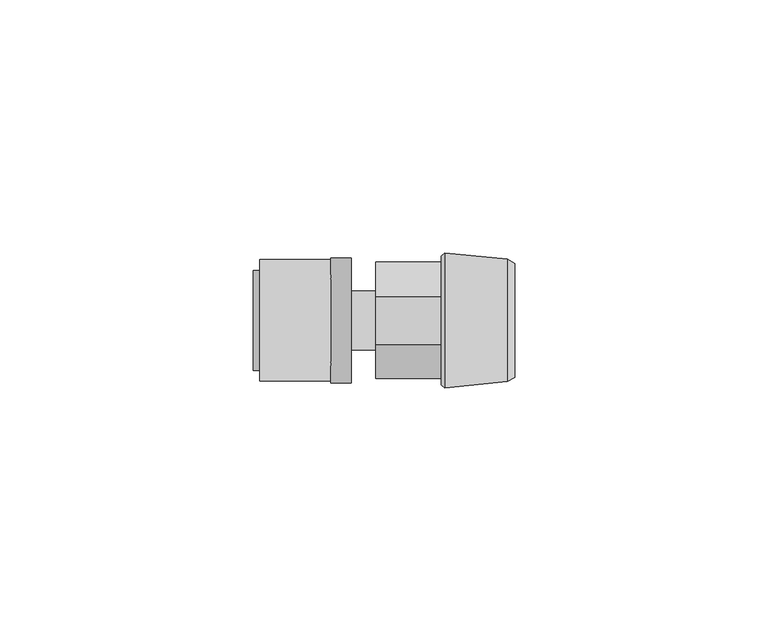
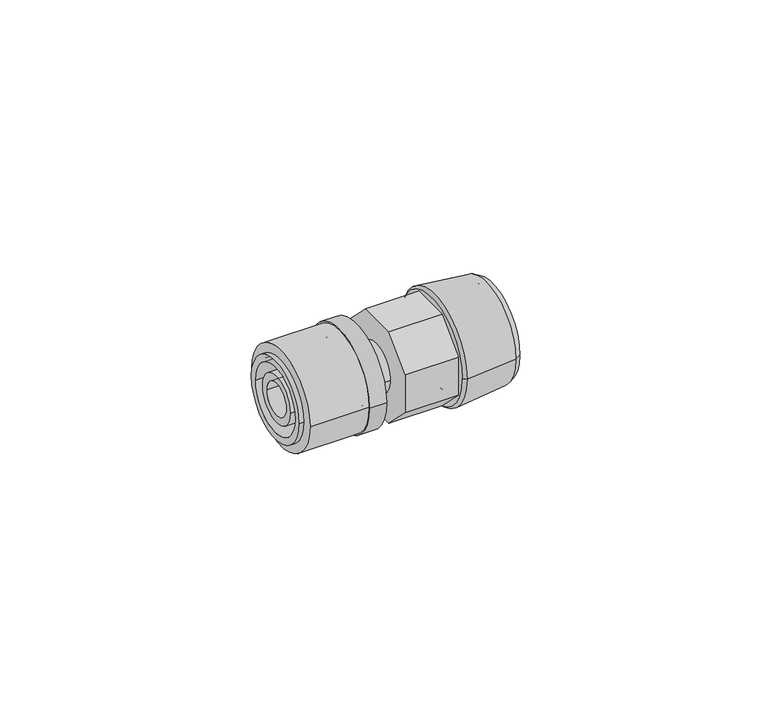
"""IFC4 building model written with IfcOpenShell, lengths in millimetres: pipe fitting geometry, FASTLOC_Adapter_RX+, with external thread : FSL A C external EX+ AT."""

from ifc_helpers import new_model, si_unit, point, frame, origin, origin_2d, place, context, project, spatial, polyline, circle_curve, trimmed, segment, composite_curve, outline, extrude, source, transform, mapped, element, save
from ifc_brep_helpers import plane_surface, cylinder_surface, revolved_surface, advanced_brep


def pipe_fitting_41a35f07(model_context):
    return source(origin(), model_context, "Body", "SolidModel", [
        extrude(outline(composite_curve([segment(trimmed(circle_curve(origin_2d(), 12.0), [point((12.0, 0.0))], [point((-12.0, 0.0))], False, "CARTESIAN"), True, "CONTINUOUS"), segment(trimmed(circle_curve(origin_2d(), 12.0), [point((-12.0, 0.0))], [point((12.0, 0.0))], False, "CARTESIAN"), True, "CONTINUOUS")], self_intersect=False), holes=[composite_curve([segment(trimmed(circle_curve(origin_2d(), 8.85), [point((8.85, 0.0))], [point((-8.85, 0.0))], True, "CARTESIAN"), True, "CONTINUOUS"), segment(trimmed(circle_curve(origin_2d(), 8.85), [point((-8.85, 0.0))], [point((8.85, 0.0))], True, "CARTESIAN"), True, "CONTINUOUS")], self_intersect=False)]), frame((-22.9, 0.0, 0.0), z_axis=(1.0, 0.0, 0.0), x_axis=(0.0, 1.0, 0.0)), (0.0, 0.0, 1.0), 14.0),
        advanced_brep(
        [(-8.9, -12.35, 0.0), (-8.9, 12.35, 0.0), (-4.9, 12.35, 0.0), (-4.9, -12.35, 0.0), (-24.2, -9.85, 0.0), (-24.2, 9.85, 0.0), (-8.9, 9.85, 0.0), (-8.9, -9.85, 0.0), (-4.9, -8.15, 0.0), (-4.9, 8.15, 0.0), (-24.2, 8.15, 0.0), (-24.2, -8.15, 0.0)],
        [
            (0, 1, circle_curve(frame((-8.9, 0.0, 0.0), z_axis=(1.0, 0.0, 0.0), x_axis=(0.0, 1.0, 0.0)), 12.35)),
            (1, 2),
            (2, 3, circle_curve(frame((-4.9, 0.0, 0.0), z_axis=(-1.0, 0.0, 0.0), x_axis=(0.0, 1.0, 0.0)), 12.35)),
            (3, 0),
            (4, 5, circle_curve(frame((-24.2, 0.0, 0.0), z_axis=(1.0, 0.0, 0.0), x_axis=(0.0, 1.0, 0.0)), 9.85)),
            (5, 6),
            (6, 7, circle_curve(frame((-8.9, 0.0, 0.0), z_axis=(-1.0, 0.0, 0.0), x_axis=(0.0, 1.0, 0.0)), 9.85)),
            (7, 4),
            (8, 9, circle_curve(frame((-4.9, 0.0, 0.0), z_axis=(1.0, 0.0, 0.0), x_axis=(0.0, 1.0, 0.0)), 8.15)),
            (9, 10),
            (10, 11, circle_curve(frame((-24.2, 0.0, 0.0), z_axis=(-1.0, 0.0, 0.0), x_axis=(0.0, 1.0, 0.0)), 8.15)),
            (11, 8),
            (1, 0, circle_curve(frame((-8.9, 0.0, 0.0), z_axis=(1.0, 0.0, 0.0), x_axis=(0.0, -1.0, 0.0)), 12.35)),
            (3, 2, circle_curve(frame((-4.9, 0.0, 0.0), z_axis=(-1.0, 0.0, 0.0), x_axis=(0.0, -1.0, 0.0)), 12.35)),
            (6, 7, circle_curve(frame((-8.9, 0.0, 0.0), z_axis=(1.0, 0.0, 0.0), x_axis=(0.0, -1.0, 0.0)), 9.85)),
            (5, 4, circle_curve(frame((-24.2, 0.0, 0.0), z_axis=(1.0, 0.0, 0.0), x_axis=(0.0, -1.0, 0.0)), 9.85)),
            (10, 11, circle_curve(frame((-24.2, 0.0, 0.0), z_axis=(1.0, 0.0, 0.0), x_axis=(0.0, -1.0, 0.0)), 8.15)),
            (9, 8, circle_curve(frame((-4.9, 0.0, 0.0), z_axis=(1.0, 0.0, 0.0), x_axis=(0.0, -1.0, 0.0)), 8.15)),
        ],
        [
            cylinder_surface(frame((-4.9, 0.0, 0.0), z_axis=(-1.0, 0.0, 0.0), x_axis=(0.0, 1.0, 0.0)), 12.35),
            cylinder_surface(frame((-4.9, 0.0, 0.0), z_axis=(-1.0, 0.0, 0.0), x_axis=(0.0, 1.0, 0.0)), 9.85),
            revolved_surface(polyline([(-24.199999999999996, 8.15, 0.0), (-4.9, 8.15, 0.0)]), (-4.9, 0.0, 0.0), (-1.0, 0.0, 0.0)),
            cylinder_surface(frame((-4.9, 0.0, 0.0), z_axis=(-1.0, 0.0, 0.0), x_axis=(0.0, -1.0, 0.0)), 12.35),
            plane_surface(frame((-8.9, 0.0, 0.0), z_axis=(-1.0, 0.0, 0.0), x_axis=(0.0, -1.0, 0.0))),
            cylinder_surface(frame((-4.9, 0.0, 0.0), z_axis=(-1.0, 0.0, 0.0), x_axis=(0.0, -1.0, 0.0)), 9.85),
            plane_surface(frame((-24.2, 0.0, 0.0), z_axis=(-1.0, 0.0, 0.0), x_axis=(0.0, -1.0, 0.0))),
            revolved_surface(polyline([(-24.199999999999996, -8.15, 0.0), (-4.9, -8.15, 0.0)]), (-4.9, 0.0, 0.0), (-1.0, 0.0, 0.0)),
            plane_surface(frame((-4.9, 0.0, 0.0), z_axis=(1.0, 0.0, 0.0), x_axis=(0.0, -1.0, 0.0))),
        ],
        [
            (0, [[1, 2, 3, 4]]),
            (1, [[5, 6, 7, 8]]),
            (2, [[9, 10, 11, 12]]),
            (3, [[13, -4, 14, -2]]),
            (4, [[-13, -1], [15, -7]]),
            (5, [[16, -8, -15, -6]]),
            (6, [[-16, -5], [17, -11]]),
            (7, [[18, -12, -17, -10]]),
            (8, [[-14, -3], [-18, -9]]),
        ],
    ),
        advanced_brep(
        [(14.0032803, 9.5, 0.0), (14.0032803, -9.5, 0.0), (27.4, -9.5, 0.0), (27.4, 9.5, 0.0), (12.9, 8.3967197, 0.0), (12.9, -8.3967197, 0.0), (13.6406902, 13.3, 0.0), (13.6406902, -13.3, 0.0), (12.9, -12.7, 0.0), (12.9, 12.7, 0.0), (25.9000007, 12.1, 0.0), (25.9000007, -12.1, 0.0), (27.4, 11.25, 0.0), (27.4, -11.25, 0.0)],
        [
            (0, 1, circle_curve(frame((14.0032803, 0.0, 0.0), z_axis=(-1.0, 0.0, 0.0), x_axis=(0.0, -1.0, 0.0)), 9.5)),
            (1, 2),
            (2, 3, circle_curve(frame((27.4, 0.0, 0.0), z_axis=(1.0, 0.0, 0.0), x_axis=(0.0, -1.0, 0.0)), 9.5)),
            (3, 0),
            (4, 5, circle_curve(frame((12.9, 0.0, 0.0), z_axis=(-1.0, 0.0, 0.0), x_axis=(0.0, -1.0, 0.0)), 8.3967197)),
            (5, 1),
            (0, 4),
            (6, 7, circle_curve(frame((13.6406902, 0.0, 0.0), z_axis=(-1.0, 0.0, 0.0), x_axis=(0.0, -1.0, 0.0)), 13.3)),
            (7, 8),
            (8, 9, circle_curve(frame((12.9, 0.0, 0.0), z_axis=(1.0, 0.0, 0.0), x_axis=(0.0, -1.0, 0.0)), 12.7)),
            (9, 6),
            (10, 11, circle_curve(frame((25.9000007, 0.0, 0.0), z_axis=(-1.0, 0.0, 0.0), x_axis=(0.0, -1.0, 0.0)), 12.1)),
            (11, 7),
            (6, 10),
            (12, 13, circle_curve(frame((27.4, 0.0, 0.0), z_axis=(-1.0, 0.0, 0.0), x_axis=(0.0, -1.0, 0.0)), 11.25)),
            (13, 11),
            (10, 12),
            (1, 0, circle_curve(frame((14.0032803, 0.0, 0.0), z_axis=(-1.0, 0.0, 0.0), x_axis=(0.0, 1.0, 0.0)), 9.5)),
            (3, 2, circle_curve(frame((27.4, 0.0, 0.0), z_axis=(1.0, 0.0, 0.0), x_axis=(0.0, 1.0, 0.0)), 9.5)),
            (5, 4, circle_curve(frame((12.9, 0.0, 0.0), z_axis=(-1.0, 0.0, 0.0), x_axis=(0.0, 1.0, 0.0)), 8.3967197)),
            (8, 9, circle_curve(frame((12.9, 0.0, 0.0), z_axis=(-1.0, 0.0, 0.0), x_axis=(0.0, 1.0, 0.0)), 12.7)),
            (7, 6, circle_curve(frame((13.6406902, 0.0, 0.0), z_axis=(-1.0, 0.0, 0.0), x_axis=(0.0, 1.0, 0.0)), 13.3)),
            (11, 10, circle_curve(frame((25.9000007, 0.0, 0.0), z_axis=(-1.0, 0.0, 0.0), x_axis=(0.0, 1.0, 0.0)), 12.1)),
            (13, 12, circle_curve(frame((27.4, 0.0, 0.0), z_axis=(-1.0, 0.0, 0.0), x_axis=(0.0, 1.0, 0.0)), 11.25)),
        ],
        [
            revolved_surface(polyline([(27.4, -9.5, 0.0), (14.0032803, -9.5, 0.0)]), (0.0, 0.0, 0.0), (1.0, 0.0, 0.0)),
            revolved_surface(polyline([(14.0032803, -9.5, 0.0), (12.9, -8.3967197, 0.0)]), (0.0, 0.0, 0.0), (1.0, 0.0, 0.0)),
            revolved_surface(polyline([(12.9, -12.7, 0.0), (13.6406902, -13.3, 0.0)]), (0.0, 0.0, 0.0), (1.0, 0.0, 0.0)),
            revolved_surface(polyline([(13.6406902, -13.3, 0.0), (25.9000007, -12.1, 0.0)]), (0.0, 0.0, 0.0), (1.0, 0.0, 0.0)),
            revolved_surface(polyline([(25.9000007, -12.1, 0.0), (27.4, -11.25, 0.0)]), (0.0, 0.0, 0.0), (1.0, 0.0, 0.0)),
            revolved_surface(polyline([(27.4, 9.5, 0.0), (14.0032803, 9.5, 0.0)]), (0.0, 0.0, 0.0), (1.0, 0.0, 0.0)),
            revolved_surface(polyline([(14.0032803, 9.5, 0.0), (12.9, 8.3967197, 0.0)]), (0.0, 0.0, 0.0), (1.0, 0.0, 0.0)),
            plane_surface(frame((12.9, 0.0, 0.0), z_axis=(-1.0, 0.0, 0.0), x_axis=(0.0, 1.0, 0.0))),
            revolved_surface(polyline([(12.9, 12.7, 0.0), (13.6406902, 13.3, 0.0)]), (0.0, 0.0, 0.0), (1.0, 0.0, 0.0)),
            revolved_surface(polyline([(13.6406902, 13.3, 0.0), (25.9000007, 12.1, 0.0)]), (0.0, 0.0, 0.0), (1.0, 0.0, 0.0)),
            revolved_surface(polyline([(25.9000007, 12.1, 0.0), (27.4, 11.25, 0.0)]), (0.0, 0.0, 0.0), (1.0, 0.0, 0.0)),
            plane_surface(frame((27.4, 0.0, 0.0), z_axis=(1.0, 0.0, 0.0), x_axis=(0.0, 1.0, 0.0))),
        ],
        [
            (0, [[1, 2, 3, 4]]),
            (1, [[5, 6, -1, 7]]),
            (2, [[8, 9, 10, 11]]),
            (3, [[12, 13, -8, 14]]),
            (4, [[15, 16, -12, 17]]),
            (5, [[18, -4, 19, -2]]),
            (6, [[20, -7, -18, -6]]),
            (7, [[21, -10], [-20, -5]]),
            (8, [[22, -11, -21, -9]]),
            (9, [[23, -14, -22, -13]]),
            (10, [[24, -17, -23, -16]]),
            (11, [[-24, -15], [-19, -3]]),
        ],
    ),
        extrude(outline(polyline([(-11.5, 4.763456), (-4.763456, 11.5), (4.763456, 11.5), (11.5, 4.763456), (11.5, -4.763456), (4.763456, -11.5), (-4.763456, -11.5), (-11.5, -4.763456), (-11.5, 4.763456)])), frame((0.0, 0.0, 0.0), z_axis=(1.0, 0.0, 0.0), x_axis=(0.0, 1.0, 0.0)), (0.0, 0.0, 1.0), 12.9),
        advanced_brep(
        [(-23.9, 3.95, 0.0), (-23.9, -3.95, 0.0), (0.0, -3.95, 0.0), (0.0, 3.95, 0.0), (0.0, 5.8, 0.0), (0.0, -5.8, 0.0), (-6.2, -5.8, 0.0), (-6.2, 5.8, 0.0), (-6.2, 6.9, 0.0), (-6.2, -6.9, 0.0), (-8.9, -6.9, 0.0), (-8.9, 6.9, 0.0), (-8.9, 5.8, 0.0), (-8.9, -5.8, 0.0), (-23.9, -5.8, 0.0), (-23.9, 5.8, 0.0)],
        [
            (0, 1, circle_curve(frame((-23.9, 0.0, 0.0), z_axis=(-1.0, 0.0, 0.0), x_axis=(0.0, -1.0, 0.0)), 3.95)),
            (1, 2),
            (2, 3, circle_curve(frame((0.0, 0.0, 0.0), z_axis=(1.0, 0.0, 0.0), x_axis=(0.0, -1.0, 0.0)), 3.95)),
            (3, 0),
            (4, 5, circle_curve(frame((0.0, 0.0, 0.0), z_axis=(-1.0, 0.0, 0.0), x_axis=(0.0, -1.0, 0.0)), 5.8)),
            (5, 6),
            (6, 7, circle_curve(frame((-6.2, 0.0, 0.0), z_axis=(1.0, 0.0, 0.0), x_axis=(0.0, -1.0, 0.0)), 5.8)),
            (7, 4),
            (8, 9, circle_curve(frame((-6.2, 0.0, 0.0), z_axis=(-1.0, 0.0, 0.0), x_axis=(0.0, -1.0, 0.0)), 6.9)),
            (9, 10),
            (10, 11, circle_curve(frame((-8.9, 0.0, 0.0), z_axis=(1.0, 0.0, 0.0), x_axis=(0.0, -1.0, 0.0)), 6.9)),
            (11, 8),
            (12, 13, circle_curve(frame((-8.9, 0.0, 0.0), z_axis=(-1.0, 0.0, 0.0), x_axis=(0.0, -1.0, 0.0)), 5.8)),
            (13, 14),
            (14, 15, circle_curve(frame((-23.9, 0.0, 0.0), z_axis=(1.0, 0.0, 0.0), x_axis=(0.0, -1.0, 0.0)), 5.8)),
            (15, 12),
            (1, 0, circle_curve(frame((-23.9, 0.0, 0.0), z_axis=(-1.0, 0.0, 0.0), x_axis=(0.0, 1.0, 0.0)), 3.95)),
            (3, 2, circle_curve(frame((0.0, 0.0, 0.0), z_axis=(1.0, 0.0, 0.0), x_axis=(0.0, 1.0, 0.0)), 3.95)),
            (4, 5, circle_curve(frame((0.0, 0.0, 0.0), z_axis=(1.0, 0.0, 0.0), x_axis=(0.0, 1.0, 0.0)), 5.8)),
            (7, 6, circle_curve(frame((-6.2, 0.0, 0.0), z_axis=(1.0, 0.0, 0.0), x_axis=(0.0, 1.0, 0.0)), 5.8)),
            (8, 9, circle_curve(frame((-6.2, 0.0, 0.0), z_axis=(1.0, 0.0, 0.0), x_axis=(0.0, 1.0, 0.0)), 6.9)),
            (11, 10, circle_curve(frame((-8.9, 0.0, 0.0), z_axis=(1.0, 0.0, 0.0), x_axis=(0.0, 1.0, 0.0)), 6.9)),
            (12, 13, circle_curve(frame((-8.9, 0.0, 0.0), z_axis=(1.0, 0.0, 0.0), x_axis=(0.0, 1.0, 0.0)), 5.8)),
            (15, 14, circle_curve(frame((-23.9, 0.0, 0.0), z_axis=(1.0, 0.0, 0.0), x_axis=(0.0, 1.0, 0.0)), 5.8)),
        ],
        [
            revolved_surface(polyline([(0.0, -3.95, 0.0), (-23.9, -3.95, 0.0)]), (0.0, 0.0, 0.0), (1.0, 0.0, 0.0)),
            cylinder_surface(frame((0.0, 0.0, 0.0), z_axis=(1.0, 0.0, 0.0), x_axis=(0.0, -1.0, 0.0)), 5.8),
            cylinder_surface(frame((0.0, 0.0, 0.0), z_axis=(1.0, 0.0, 0.0), x_axis=(0.0, -1.0, 0.0)), 6.9),
            revolved_surface(polyline([(0.0, 3.95, 0.0), (-23.9, 3.95, 0.0)]), (0.0, 0.0, 0.0), (1.0, 0.0, 0.0)),
            plane_surface(frame((0.0, 0.0, 0.0), z_axis=(1.0, 0.0, 0.0), x_axis=(0.0, 1.0, 0.0))),
            cylinder_surface(frame((0.0, 0.0, 0.0), z_axis=(1.0, 0.0, 0.0), x_axis=(0.0, 1.0, 0.0)), 5.8),
            plane_surface(frame((-6.2, 0.0, 0.0), z_axis=(1.0, 0.0, 0.0), x_axis=(0.0, 1.0, 0.0))),
            cylinder_surface(frame((0.0, 0.0, 0.0), z_axis=(1.0, 0.0, 0.0), x_axis=(0.0, 1.0, 0.0)), 6.9),
            plane_surface(frame((-8.9, 0.0, 0.0), z_axis=(-1.0, 0.0, 0.0), x_axis=(0.0, 1.0, 0.0))),
            plane_surface(frame((-23.9, 0.0, 0.0), z_axis=(-1.0, 0.0, 0.0), x_axis=(0.0, 1.0, 0.0))),
        ],
        [
            (0, [[1, 2, 3, 4]]),
            (1, [[5, 6, 7, 8]]),
            (2, [[9, 10, 11, 12]]),
            (1, [[13, 14, 15, 16]]),
            (3, [[17, -4, 18, -2]]),
            (4, [[19, -5], [-18, -3]]),
            (5, [[-19, -8, 20, -6]]),
            (6, [[21, -9], [-20, -7]]),
            (7, [[-21, -12, 22, -10]]),
            (8, [[-22, -11], [23, -13]]),
            (5, [[-23, -16, 24, -14]]),
            (9, [[-24, -15], [-17, -1]]),
        ],
    ),
    ])


if __name__ == "__main__":
    model = new_model("IFC4")
    model_context = context("Model", 3, world=origin())
    ifc_project = project(units=[si_unit("LENGTHUNIT", "METRE", prefix="MILLI")], contexts=[model_context])
    site = spatial("IfcSite", under=ifc_project)
    building = spatial("IfcBuilding", under=site)
    placement = place(None, origin())
    pipe_fitting_shape = pipe_fitting_41a35f07(model_context)
    element("IfcPipeFitting", 1, ObjectType="FASTLOC_Adapter_RX+, with external thread : FSL A C external EX+ AT", at=placement, inside=building, context=model_context, shape_type="MappedRepresentation", body=[
        mapped(pipe_fitting_shape, transform((0.0, 0.0, 0.0), x_axis=(1.0, 0.0, 0.0), y_axis=(0.0, 1.0, 0.0), z_axis=(0.0, 0.0, 1.0))),
    ])
    save(model, "model.ifc")
